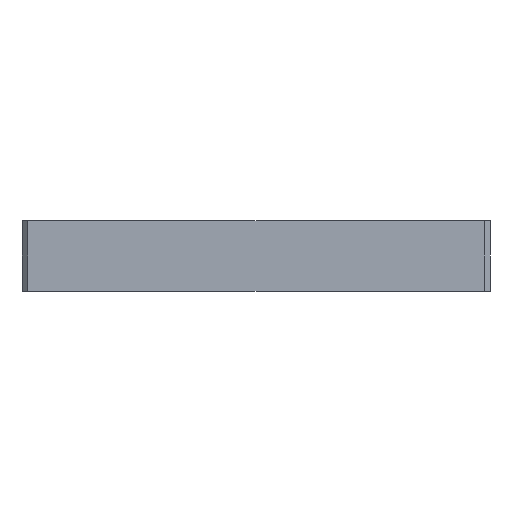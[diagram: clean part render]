
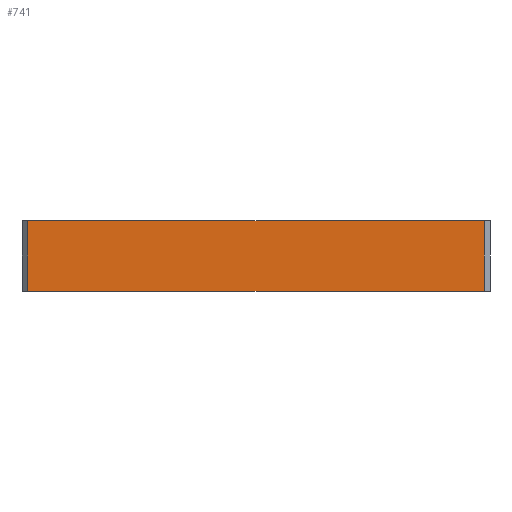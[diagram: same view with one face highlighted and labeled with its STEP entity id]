
A CAD part, left-side view. The second image highlights one B-rep face of the part: STEP entity #741.
In plain terms, the highlighted planar face has unit normal (-1, 0, 0).
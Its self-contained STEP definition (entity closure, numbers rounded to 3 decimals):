
#3 = ORIENTED_EDGE ( 'NONE', *, *, #702, .T. ) ;
#15 = VERTEX_POINT ( 'NONE', #63 ) ;
#49 = EDGE_LOOP ( 'NONE', ( #465, #3, #599, #153 ) ) ;
#58 = PLANE ( 'NONE',  #103 ) ;
#63 = CARTESIAN_POINT ( 'NONE',  ( -40., 39., 12. ) ) ;
#73 = EDGE_CURVE ( 'NONE', #570, #305, #400, .T. ) ;
#80 = LINE ( 'NONE', #1027, #287 ) ;
#103 = AXIS2_PLACEMENT_3D ( 'NONE', #952, #1006, #897 ) ;
#153 = ORIENTED_EDGE ( 'NONE', *, *, #925, .T. ) ;
#224 = CARTESIAN_POINT ( 'NONE',  ( -40., -39., 12. ) ) ;
#229 = CARTESIAN_POINT ( 'NONE',  ( -40., -39., 0. ) ) ;
#287 = VECTOR ( 'NONE', #1023, 1000. ) ;
#305 = VERTEX_POINT ( 'NONE', #229 ) ;
#314 = VECTOR ( 'NONE', #753, 1000. ) ;
#380 = DIRECTION ( 'NONE',  ( 0., -1., 0. ) ) ;
#400 = LINE ( 'NONE', #1050, #427 ) ;
#427 = VECTOR ( 'NONE', #380, 1000. ) ;
#445 = VERTEX_POINT ( 'NONE', #224 ) ;
#464 = VECTOR ( 'NONE', #903, 1000. ) ;
#465 = ORIENTED_EDGE ( 'NONE', *, *, #73, .T. ) ;
#552 = FACE_OUTER_BOUND ( 'NONE', #49, .T. ) ;
#570 = VERTEX_POINT ( 'NONE', #846 ) ;
#585 = LINE ( 'NONE', #760, #314 ) ;
#596 = LINE ( 'NONE', #838, #464 ) ;
#599 = ORIENTED_EDGE ( 'NONE', *, *, #691, .F. ) ;
#691 = EDGE_CURVE ( 'NONE', #15, #445, #80, .T. ) ;
#702 = EDGE_CURVE ( 'NONE', #305, #445, #585, .T. ) ;
#741 = ADVANCED_FACE ( 'NONE', ( #552 ), #58, .F. ) ;
#753 = DIRECTION ( 'NONE',  ( 0., 0., 1. ) ) ;
#760 = CARTESIAN_POINT ( 'NONE',  ( -40., -39., 12. ) ) ;
#838 = CARTESIAN_POINT ( 'NONE',  ( -40., 39., 12. ) ) ;
#846 = CARTESIAN_POINT ( 'NONE',  ( -40., 39., 0. ) ) ;
#897 = DIRECTION ( 'NONE',  ( 0., 0., -1. ) ) ;
#903 = DIRECTION ( 'NONE',  ( 0., 0., -1. ) ) ;
#925 = EDGE_CURVE ( 'NONE', #15, #570, #596, .T. ) ;
#952 = CARTESIAN_POINT ( 'NONE',  ( -40., 40., 12. ) ) ;
#1006 = DIRECTION ( 'NONE',  ( 1., 0., 0. ) ) ;
#1023 = DIRECTION ( 'NONE',  ( 0., -1., 0. ) ) ;
#1027 = CARTESIAN_POINT ( 'NONE',  ( -40., 40., 12. ) ) ;
#1050 = CARTESIAN_POINT ( 'NONE',  ( -40., 40., 0. ) ) ;
